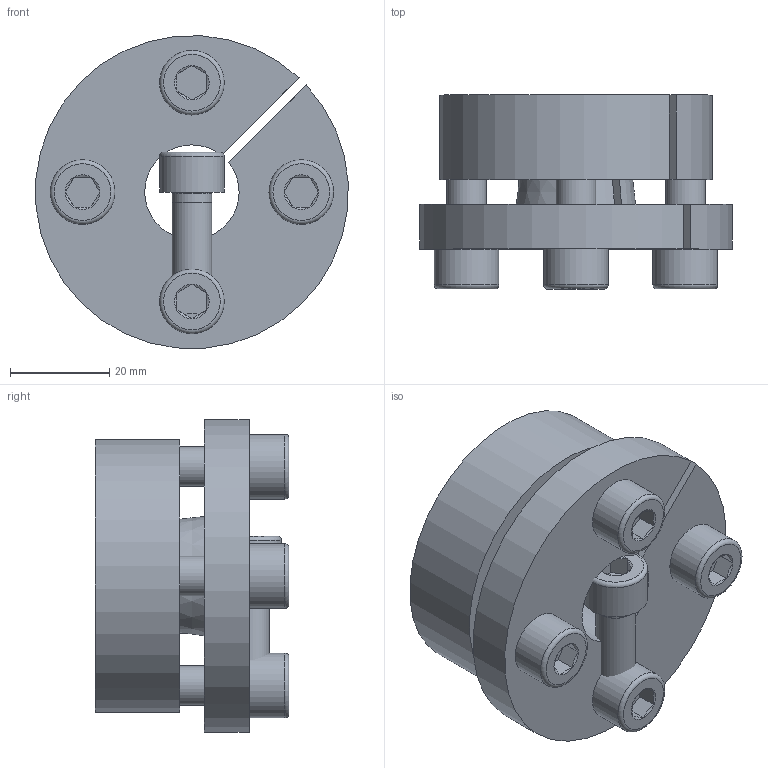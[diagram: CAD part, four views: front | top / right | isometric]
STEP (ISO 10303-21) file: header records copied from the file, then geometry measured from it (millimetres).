
FILE_DESCRIPTION( ( 'Unknown' ), '1' );
FILE_NAME( 'C:/Dokumente und Einstellungen/Sven/Desktop/15/KBS 15 - 19 x 55.stp', 'Unknown', ( 'Unknown' ), ( 'Unknown' ), 'XStep 1.0', 'Unknown', ' ' );
FILE_SCHEMA( ( 'automotive_design' ) );
Length unit declared in the file: millimetre
Products named in the file (3): Assem1; ISO EN DIN 4762 M8x25_2; KBS 15 - 19 x 55_0
Bounding box: 62.84 x 39 x 62.84 mm (x, y, z)
Volume: 123125.4 mm3; surface area: 44355.9 mm2
Topology: 7 solids, 7 shells, 165 faces, 342 edges, 211 vertices
Faces by surface type: plane 74, cylinder 42, cone 39, torus 10
Full cylindrical faces by diameter (mm): 6.647 x8, 7 x5, 8 x10, 9 x8, 13 x5
Entity records: 1434 total; most frequent: CARTESIAN_POINT 239, DIRECTION 220, ORIENTED_EDGE 162, AXIS2_PLACEMENT_3D 96, EDGE_CURVE 81, EDGE_LOOP 80, FACE_OUTER_BOUND 59, VERTEX_POINT 59
